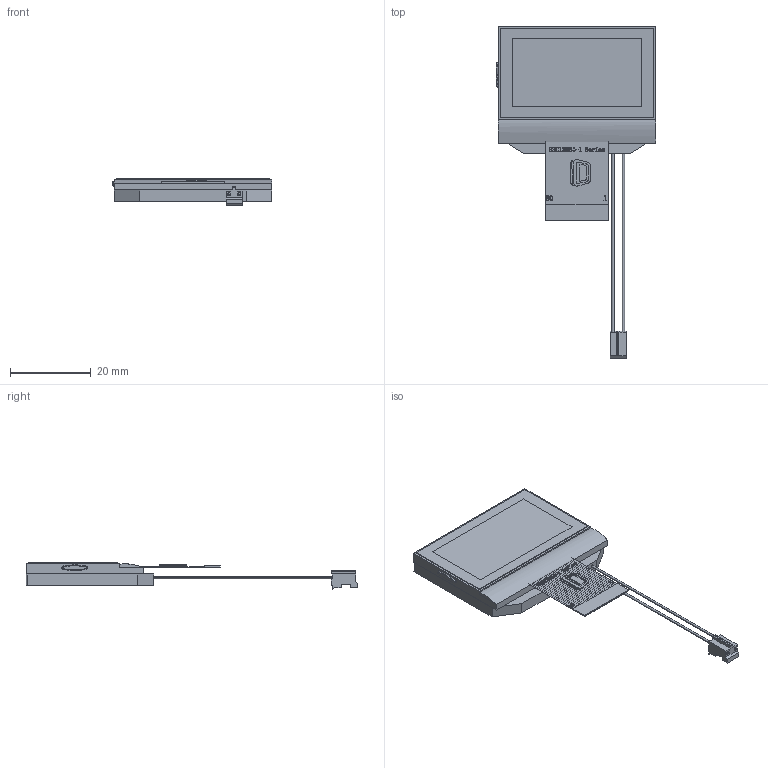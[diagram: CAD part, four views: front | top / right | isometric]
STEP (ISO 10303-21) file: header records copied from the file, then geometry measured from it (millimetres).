
FILE_DESCRIPTION (( 'STEP AP214' ), '1' );
FILE_NAME ('ERC12864-1.STEP', '2024-07-16T02:20:26', ( '微软用户' ), ( '微软中国' ), 'SwSTEP 2.0', 'SolidWorks 2023', '' );
FILE_SCHEMA (( 'AUTOMOTIVE_DESIGN' ));
Length unit declared in the file: millimetre
Products named in the file (4): Backlight; B-2.0-2P; ERC12864-1; COG Glass
Assembly tree (3 placements, depth 2):
  ERC12864-1
    Backlight
    COG Glass
    B-2.0-2P
Bounding box: 39.5 x 82 x 6.8 mm (x, y, z)
Volume: 6641.3 mm3; surface area: 8748.7 mm2
Topology: 91 solids, 91 shells, 795 faces, 1837 edges, 1224 vertices
Faces by surface type: plane 524, bspline 177, cylinder 94
Entity records: 37105 total; most frequent: CARTESIAN_POINT 13440, ORIENTED_EDGE 3674, DIRECTION 2909, EDGE_CURVE 1837, VECTOR 1297, LINE 1297, VERTEX_POINT 1224, EDGE_LOOP 817
